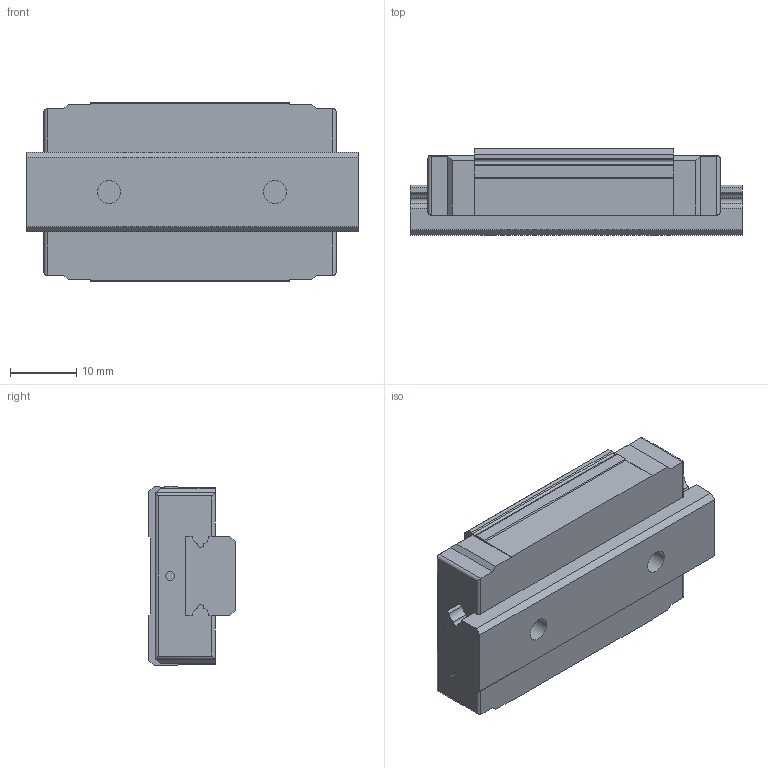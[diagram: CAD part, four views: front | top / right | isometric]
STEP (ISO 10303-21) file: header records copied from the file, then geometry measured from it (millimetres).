
FILE_DESCRIPTION( ( 'STEP AP214' ), '1' );
FILE_NAME( 'G:/品牌/AZI工艺/滑块/GGC/GGC12BAL.stp', '2024-01-19T03:43:55', ( 'License CC BY-ND 4.0' ), ( 'CADENAS' ), ' ', 'PARTsolutions', ' ' );
FILE_SCHEMA( ( 'AUTOMOTIVE_DESIGN { 1 0 10303 214 1 1 1 1 }' ) );
Length unit declared in the file: millimetre
Products named in the file (3): ZLCE13-50-(24.7-0-0); _ZTCE13-50; _ZZLCE13
Assembly tree (2 placements, depth 2):
  ZLCE13-50-(24.7-0-0)
    _ZTCE13-50
    _ZZLCE13
Bounding box: 50 x 13 x 27 mm (x, y, z)
Volume: 12815.5 mm3; surface area: 6754 mm2
Topology: 2 solids, 2 shells, 104 faces, 276 edges, 180 vertices
Faces by surface type: plane 57, cylinder 39, cone 8
Full cylindrical faces by diameter (mm): 1.3 x2, 2.459 x4, 3.5 x2, 6 x2
Entity records: 4010 total; most frequent: DIRECTION 550, CARTESIAN_POINT 541, ORIENTED_EDGE 508, EDGE_CURVE 254, AXIS2_PLACEMENT_3D 189, VERTEX_POINT 180, LINE 172, VECTOR 172
